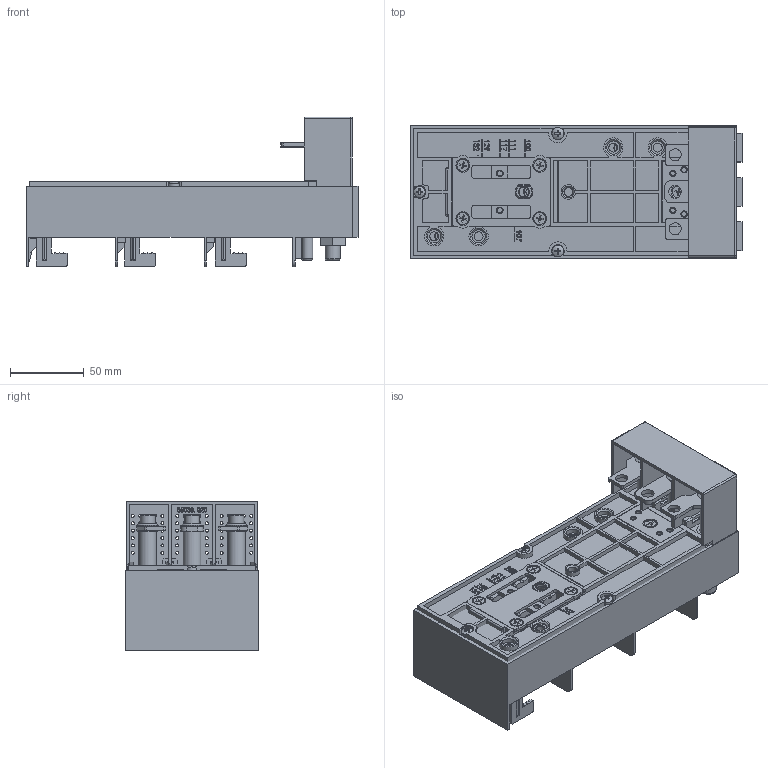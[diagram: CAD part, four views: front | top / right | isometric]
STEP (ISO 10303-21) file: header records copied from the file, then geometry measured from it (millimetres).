
FILE_DESCRIPTION (( 'STEP AP203' ), '1' );
FILE_NAME ('55072.STEP', '2021-08-24T00:29:08', ( '' ), ( '' ), 'SwSTEP 2.0', 'SolidWorks 2017', '' );
FILE_SCHEMA (( 'CONFIG_CONTROL_DESIGN' ));
Products named in the file (2): 55072
Bounding box: 224.5 x 90 x 101.3 mm (x, y, z)
Volume: 761257.5 mm3; surface area: 210713.4 mm2
Topology: 10 solids, 10 shells, 2408 faces, 6465 edges, 4222 vertices
Faces by surface type: plane 1585, cylinder 511, bspline 188, cone 97, torus 20, sphere 7
Full cylindrical faces by diameter (mm): 2 x90, 3.2 x6, 3.3 x2, 3.5 x2, 4 x10, 4.2 x3, 4.3 x4, 4.5 x1, 6 x8, 6.5 x1, 7 x3, 7.5 x1, 8 x12, 8.2 x2, 8.5 x1, 9 x9, 10 x7, 11 x4, 12 x3, 13 x1, 13.891 x2, 15 x3
Entity records: 96851 total; most frequent: CARTESIAN_POINT 37916, ORIENTED_EDGE 12260, DIRECTION 11248, EDGE_CURVE 6130, LINE 4524, VECTOR 4524, VERTEX_POINT 4158, AXIS2_PLACEMENT_3D 3362
